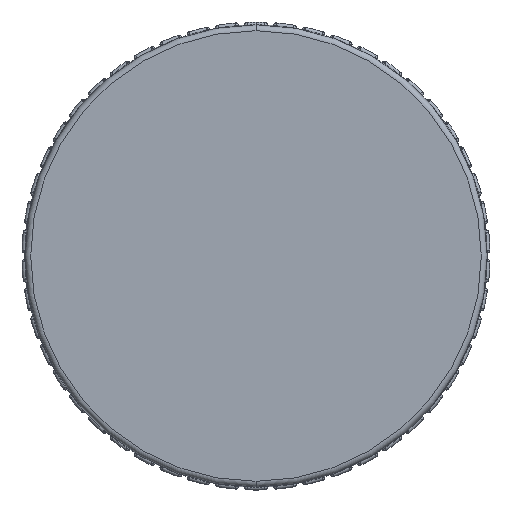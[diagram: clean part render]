
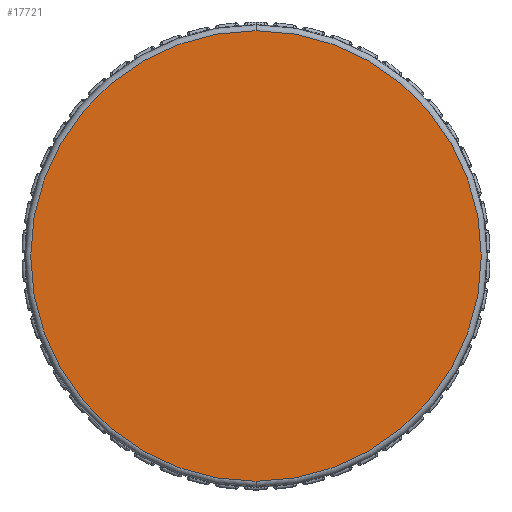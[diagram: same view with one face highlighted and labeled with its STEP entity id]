
A CAD part, front view. The second image highlights one B-rep face of the part: STEP entity #17721.
In plain terms, the highlighted planar face has unit normal (0, -1, 0).
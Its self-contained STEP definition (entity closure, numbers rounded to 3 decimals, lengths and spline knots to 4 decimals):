
#113 = CIRCLE ( 'NONE', #19356, 3.875 ) ;
#1077 = CARTESIAN_POINT ( 'NONE',  ( 0., 0., 0. ) ) ;
#1271 = DIRECTION ( 'NONE',  ( 0., 0., 1. ) ) ;
#2008 = EDGE_CURVE ( 'NONE', #18852, #34312, #113, .T. ) ;
#3365 = DIRECTION ( 'NONE',  ( 0., 0., 1. ) ) ;
#4333 = EDGE_LOOP ( 'NONE', ( #27188, #7911 ) ) ;
#4600 = CARTESIAN_POINT ( 'NONE',  ( 0., 0., -3.875 ) ) ;
#7911 = ORIENTED_EDGE ( 'NONE', *, *, #2008, .T. ) ;
#12010 = FACE_OUTER_BOUND ( 'NONE', #4333, .T. ) ;
#14040 = EDGE_CURVE ( 'NONE', #34312, #18852, #28583, .T. ) ;
#15417 = CARTESIAN_POINT ( 'NONE',  ( 0., 0., 0. ) ) ;
#17721 = ADVANCED_FACE ( 'NONE', ( #12010 ), #36729, .F. ) ;
#18443 = CARTESIAN_POINT ( 'NONE',  ( 0., 0., 0. ) ) ;
#18852 = VERTEX_POINT ( 'NONE', #4600 ) ;
#19356 = AXIS2_PLACEMENT_3D ( 'NONE', #1077, #32015, #1271 ) ;
#20636 = CARTESIAN_POINT ( 'NONE',  ( 0., 0., 3.875 ) ) ;
#22821 = AXIS2_PLACEMENT_3D ( 'NONE', #15417, #37716, #3365 ) ;
#27188 = ORIENTED_EDGE ( 'NONE', *, *, #14040, .T. ) ;
#28583 = CIRCLE ( 'NONE', #22821, 3.875 ) ;
#31036 = AXIS2_PLACEMENT_3D ( 'NONE', #18443, #36332, #33318 ) ;
#32015 = DIRECTION ( 'NONE',  ( 0., -1., 0. ) ) ;
#33318 = DIRECTION ( 'NONE',  ( 0., 0., 1. ) ) ;
#34312 = VERTEX_POINT ( 'NONE', #20636 ) ;
#36332 = DIRECTION ( 'NONE',  ( 0., 1., 0. ) ) ;
#36729 = PLANE ( 'NONE',  #31036 ) ;
#37716 = DIRECTION ( 'NONE',  ( 0., -1., 0. ) ) ;
